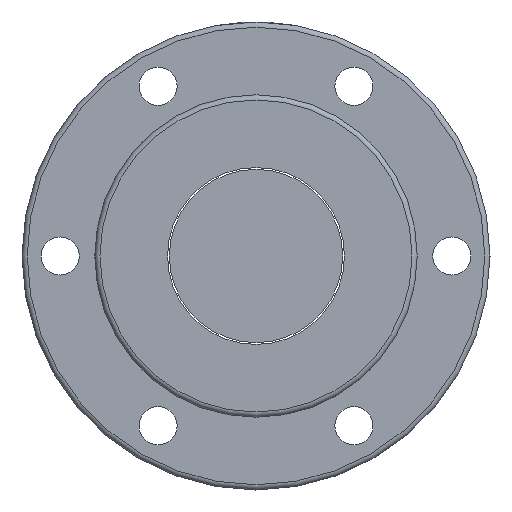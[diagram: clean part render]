
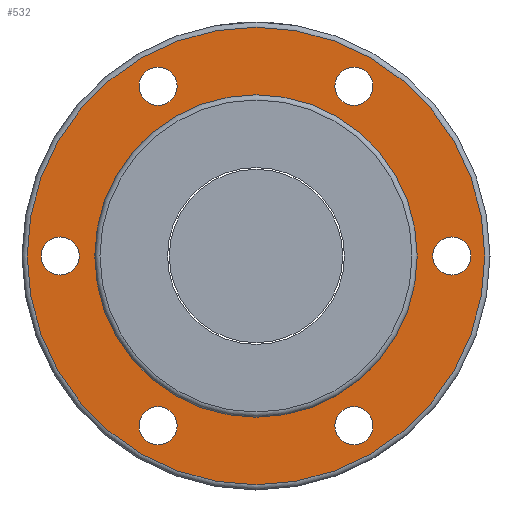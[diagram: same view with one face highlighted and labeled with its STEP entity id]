
A CAD part, left-side view. The second image highlights one B-rep face of the part: STEP entity #532.
In plain terms, the highlighted planar face has unit normal (-1, 0, 0).
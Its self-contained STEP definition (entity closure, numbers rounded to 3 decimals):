
#152=ORIENTED_EDGE('',*,*,#223,.F.);
#153=ORIENTED_EDGE('',*,*,#228,.T.);
#154=ORIENTED_EDGE('',*,*,#221,.F.);
#155=ORIENTED_EDGE('',*,*,#217,.F.);
#156=ORIENTED_EDGE('',*,*,#213,.F.);
#157=ORIENTED_EDGE('',*,*,#209,.F.);
#158=ORIENTED_EDGE('',*,*,#205,.F.);
#159=ORIENTED_EDGE('',*,*,#201,.F.);
#201=EDGE_CURVE('',#252,#252,#294,.T.);
#205=EDGE_CURVE('',#256,#256,#298,.T.);
#209=EDGE_CURVE('',#260,#260,#302,.T.);
#213=EDGE_CURVE('',#264,#264,#306,.T.);
#217=EDGE_CURVE('',#268,#268,#310,.T.);
#221=EDGE_CURVE('',#272,#272,#314,.T.);
#223=EDGE_CURVE('',#274,#274,#316,.T.);
#228=EDGE_CURVE('',#279,#279,#321,.T.);
#252=VERTEX_POINT('',#865);
#256=VERTEX_POINT('',#876);
#260=VERTEX_POINT('',#887);
#264=VERTEX_POINT('',#898);
#268=VERTEX_POINT('',#909);
#272=VERTEX_POINT('',#920);
#274=VERTEX_POINT('',#925);
#279=VERTEX_POINT('',#940);
#294=CIRCLE('',#586,5.5);
#298=CIRCLE('',#593,5.5);
#302=CIRCLE('',#600,5.5);
#306=CIRCLE('',#607,5.5);
#310=CIRCLE('',#614,5.5);
#314=CIRCLE('',#621,5.5);
#316=CIRCLE('',#624,46.5);
#321=CIRCLE('',#634,66.);
#387=EDGE_LOOP('',(#152));
#388=EDGE_LOOP('',(#153));
#389=EDGE_LOOP('',(#154));
#390=EDGE_LOOP('',(#155));
#391=EDGE_LOOP('',(#156));
#392=EDGE_LOOP('',(#157));
#393=EDGE_LOOP('',(#158));
#394=EDGE_LOOP('',(#159));
#470=FACE_BOUND('',#387,.T.);
#471=FACE_BOUND('',#388,.T.);
#472=FACE_BOUND('',#389,.T.);
#473=FACE_BOUND('',#390,.T.);
#474=FACE_BOUND('',#391,.T.);
#475=FACE_BOUND('',#392,.T.);
#476=FACE_BOUND('',#393,.T.);
#477=FACE_BOUND('',#394,.T.);
#500=PLANE('',#635);
#532=ADVANCED_FACE('',(#470,#471,#472,#473,#474,#475,#476,#477),#500,.T.);
#586=AXIS2_PLACEMENT_3D('',#864,#686,#687);
#593=AXIS2_PLACEMENT_3D('',#875,#700,#701);
#600=AXIS2_PLACEMENT_3D('',#886,#714,#715);
#607=AXIS2_PLACEMENT_3D('',#897,#728,#729);
#614=AXIS2_PLACEMENT_3D('',#908,#742,#743);
#621=AXIS2_PLACEMENT_3D('',#919,#756,#757);
#624=AXIS2_PLACEMENT_3D('',#924,#762,#763);
#634=AXIS2_PLACEMENT_3D('',#939,#782,#783);
#635=AXIS2_PLACEMENT_3D('',#941,#784,#785);
#686=DIRECTION('',(-1.,0.,0.));
#687=DIRECTION('',(0.,-1.,0.));
#700=DIRECTION('',(-1.,0.,0.));
#701=DIRECTION('',(0.,-1.,0.));
#714=DIRECTION('',(-1.,0.,0.));
#715=DIRECTION('',(0.,-1.,0.));
#728=DIRECTION('',(-1.,0.,0.));
#729=DIRECTION('',(0.,-1.,0.));
#742=DIRECTION('',(-1.,0.,0.));
#743=DIRECTION('',(0.,-1.,0.));
#756=DIRECTION('',(-1.,0.,0.));
#757=DIRECTION('',(0.,-1.,0.));
#762=DIRECTION('',(-1.,0.,0.));
#763=DIRECTION('',(0.,-1.,0.));
#782=DIRECTION('',(-1.,0.,0.));
#783=DIRECTION('',(0.,-1.,0.));
#784=DIRECTION('',(-1.,0.,0.));
#785=DIRECTION('',(0.,1.,0.));
#864=CARTESIAN_POINT('',(-34.5,56.5,0.));
#865=CARTESIAN_POINT('',(-34.5,51.,0.));
#875=CARTESIAN_POINT('',(-34.5,-56.5,0.));
#876=CARTESIAN_POINT('',(-34.5,-62.,0.));
#886=CARTESIAN_POINT('',(-34.5,28.25,-48.93));
#887=CARTESIAN_POINT('',(-34.5,22.75,-48.93));
#897=CARTESIAN_POINT('',(-34.5,-28.25,-48.93));
#898=CARTESIAN_POINT('',(-34.5,-33.75,-48.93));
#908=CARTESIAN_POINT('',(-34.5,-28.25,48.93));
#909=CARTESIAN_POINT('',(-34.5,-33.75,48.93));
#919=CARTESIAN_POINT('',(-34.5,28.25,48.93));
#920=CARTESIAN_POINT('',(-34.5,22.75,48.93));
#924=CARTESIAN_POINT('',(-34.5,0.,0.));
#925=CARTESIAN_POINT('',(-34.5,-46.5,0.));
#939=CARTESIAN_POINT('',(-34.5,0.,0.));
#940=CARTESIAN_POINT('',(-34.5,-66.,0.));
#941=CARTESIAN_POINT('',(-34.5,56.25,0.));
